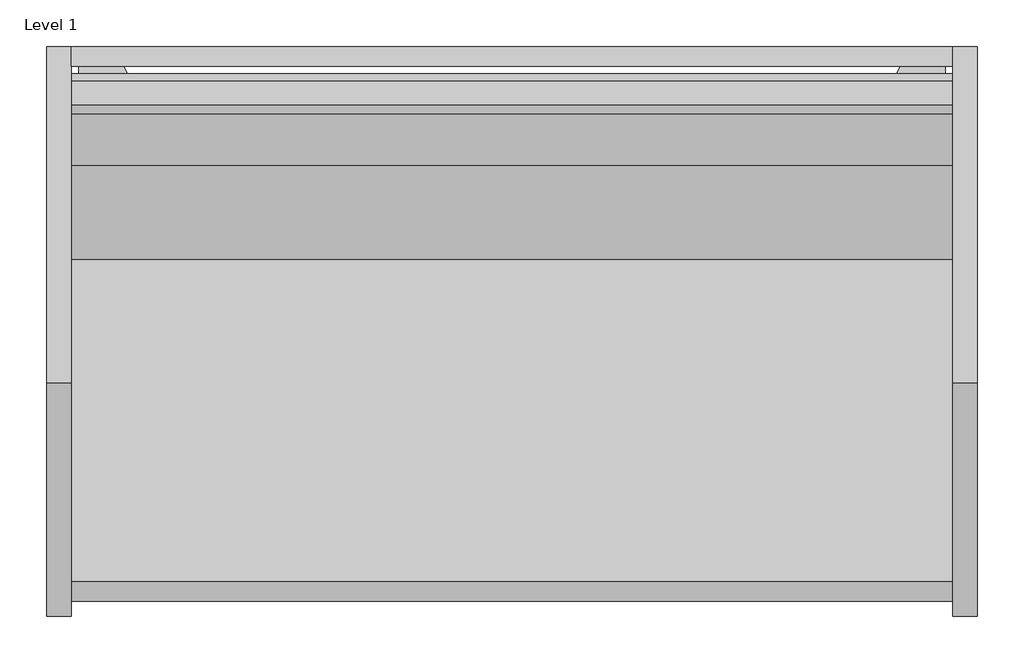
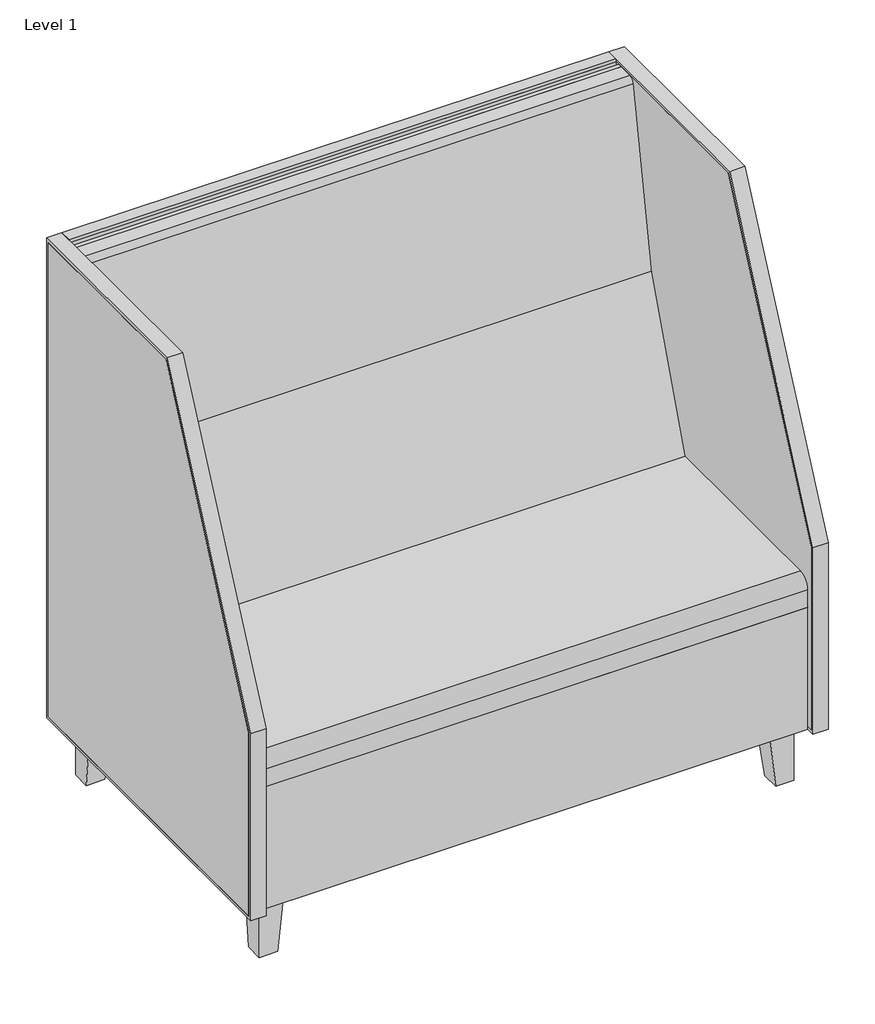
# One storey, incomplete: 1 furniture element.
"""IFC4 building model written with IfcOpenShell, lengths in millimetres."""

from ifc_helpers import new_model, si_unit, origin, place, context, project, spatial, transform, mapped, element, save
from components import am200pa_4a72f240

model = new_model("IFC4")

# Units and contexts
model_context = context("Model", 3, world=origin())
ifc_project = project(units=[si_unit("LENGTHUNIT", "METRE", prefix="MILLI")], contexts=[model_context])

# Site, building, storey
site = spatial("IfcSite", under=ifc_project)
building = spatial("IfcBuilding", under=site)
storey = spatial("IfcBuildingStorey", under=building, Name="Level 1", Elevation=0.0)

# Furniture
placement = place(None, origin())
am200pa_shape = am200pa_4a72f240(model_context)
element("IfcFurniture", 1, ObjectType="Stance_HC-Attesa-Privacy_Seat : AM200PA", at=placement, inside=storey, context=model_context, shape_type="MappedRepresentation", body=[
    mapped(am200pa_shape, transform((-2522.7874678, 16.7101659, 0.0), x_axis=(1.0, 0.0, 0.0), y_axis=(0.0, 1.0, 0.0), z_axis=(0.0, 0.0, 1.0))),
])

save(model, "model.ifc")
